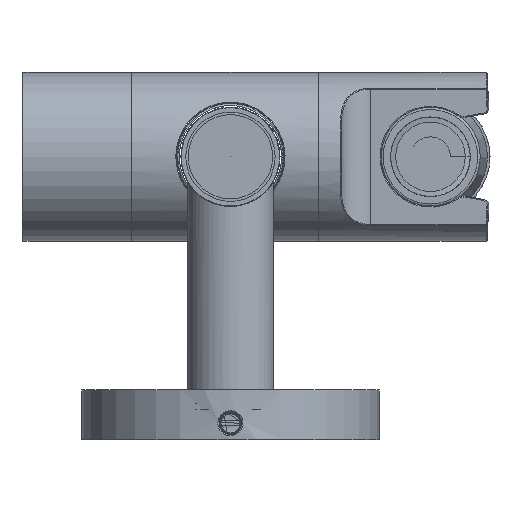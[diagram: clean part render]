
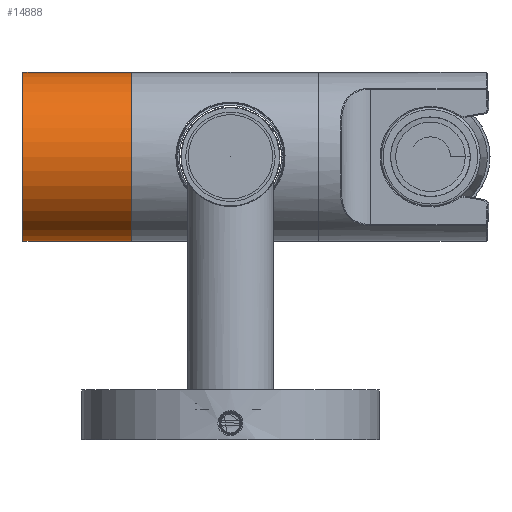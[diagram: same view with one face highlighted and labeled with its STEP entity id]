
A CAD part, front view. The second image highlights one B-rep face of the part: STEP entity #14888.
In plain terms, the highlighted cylindrical face has radius 17 mm (diameter 34 mm), a full revolution.
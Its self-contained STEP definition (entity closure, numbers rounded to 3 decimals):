
#2286=LINE('',#55456,#3043);
#3043=VECTOR('',#18419,17.);
#3545=CYLINDRICAL_SURFACE('',#15922,17.);
#4408=FACE_OUTER_BOUND('',#5454,.T.);
#5454=EDGE_LOOP('',(#13359,#13360,#13361,#13362,#13363));
#5881=CIRCLE('',#15916,17.);
#5885=CIRCLE('',#15920,17.);
#5886=CIRCLE('',#15923,17.);
#7114=VERTEX_POINT('',#55444);
#7115=VERTEX_POINT('',#55445);
#7118=VERTEX_POINT('',#55455);
#9232=EDGE_CURVE('',#7114,#7115,#5881,.T.);
#9236=EDGE_CURVE('',#7115,#7114,#5885,.T.);
#9237=EDGE_CURVE('',#7114,#7118,#2286,.T.);
#9238=EDGE_CURVE('',#7118,#7118,#5886,.T.);
#13359=ORIENTED_EDGE('',*,*,#9232,.F.);
#13360=ORIENTED_EDGE('',*,*,#9237,.T.);
#13361=ORIENTED_EDGE('',*,*,#9238,.F.);
#13362=ORIENTED_EDGE('',*,*,#9237,.F.);
#13363=ORIENTED_EDGE('',*,*,#9236,.F.);
#14888=ADVANCED_FACE('',(#4408),#3545,.T.);
#15916=AXIS2_PLACEMENT_3D('',#55446,#18405,#18406);
#15920=AXIS2_PLACEMENT_3D('',#55452,#18413,#18414);
#15922=AXIS2_PLACEMENT_3D('',#55454,#18417,#18418);
#15923=AXIS2_PLACEMENT_3D('',#55457,#18420,#18421);
#18405=DIRECTION('center_axis',(-1.,0.,0.));
#18406=DIRECTION('ref_axis',(0.,0.,
1.));
#18413=DIRECTION('center_axis',(-1.,0.,0.));
#18414=DIRECTION('ref_axis',(0.,0.,
1.));
#18417=DIRECTION('center_axis',(1.,0.,0.));
#18418=DIRECTION('ref_axis',(0.,0.,1.));
#18419=DIRECTION('',(1.,0.,0.));
#18420=DIRECTION('center_axis',(1.,0.,0.));
#18421=DIRECTION('ref_axis',(0.,0.,1.));
#55444=CARTESIAN_POINT('',(-41.8,-20.004,-17.));
#55445=CARTESIAN_POINT('',(-41.8,-20.004,17.));
#55446=CARTESIAN_POINT('Origin',(-41.8,-20.004,0.));
#55452=CARTESIAN_POINT('Origin',(-41.8,-20.004,0.));
#55454=CARTESIAN_POINT('Origin',(-58.,-20.004,0.));
#55455=CARTESIAN_POINT('',(-20.,-20.004,-17.));
#55456=CARTESIAN_POINT('',(-58.,-20.004,-17.));
#55457=CARTESIAN_POINT('Origin',(-20.,-20.004,0.));
